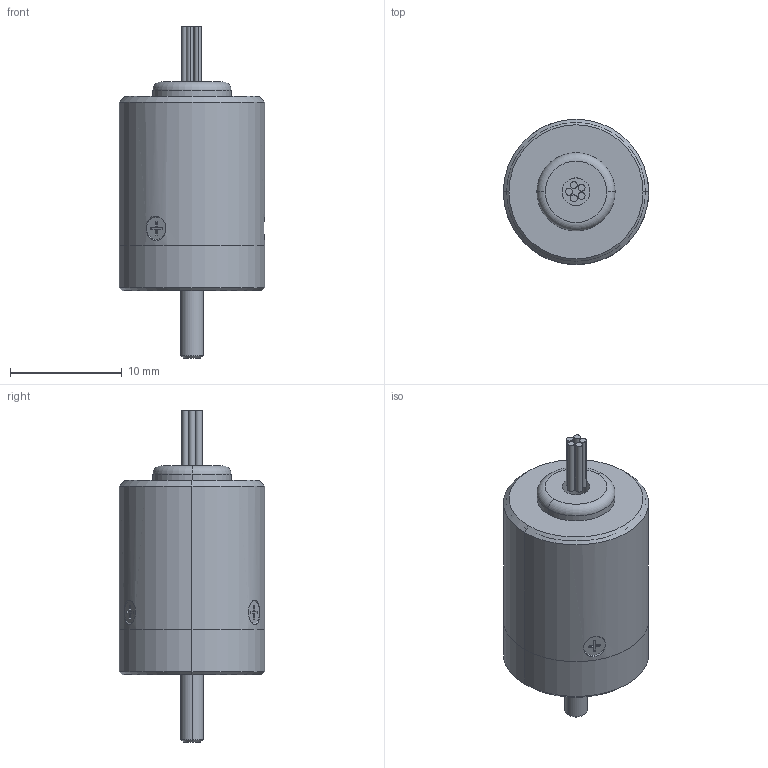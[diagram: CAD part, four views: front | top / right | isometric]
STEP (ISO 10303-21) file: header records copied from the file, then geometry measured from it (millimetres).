
FILE_DESCRIPTION(('STEP AP203'),'1');
FILE_NAME('//192.168.0.150/share/技術部/WS01-machida/機種一覧/小型磁気式/量産用/MMS-10外観データ(後出).step','2017-04-18T00:57:07',(' '),(' '),'Spatial InterOp 3D',' ',' ');
FILE_SCHEMA(('CONFIG_CONTROL_DESIGN'));
Length unit declared in the file: millimetre
Products named in the file (14): 1; 2; 3; 4; 5; 6; 7; 8; 9; 10; 11; 12; 13; 14
Bounding box: 13 x 13 x 29.7 mm (x, y, z)
Volume: 1065.8 mm3; surface area: 2644.1 mm2
Topology: 14 solids, 14 shells, 192 faces, 440 edges, 280 vertices
Faces by surface type: cylinder 76, plane 76, cone 36, torus 4
Entity records: 6297 total; most frequent: CARTESIAN_POINT 1269, DIRECTION 979, ORIENTED_EDGE 860, EDGE_CURVE 430, AXIS2_PLACEMENT_3D 378, VERTEX_POINT 280, LINE 223, VECTOR 223
